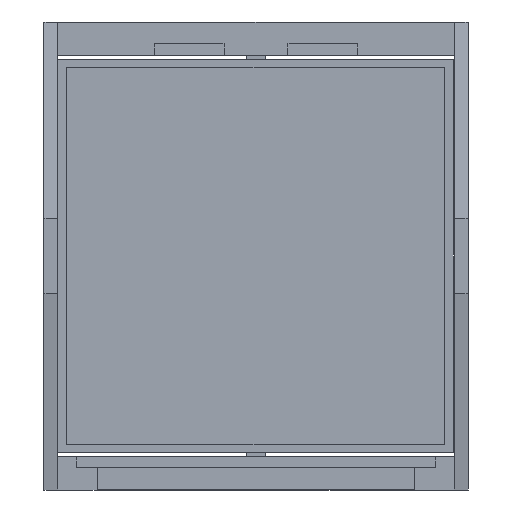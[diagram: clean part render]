
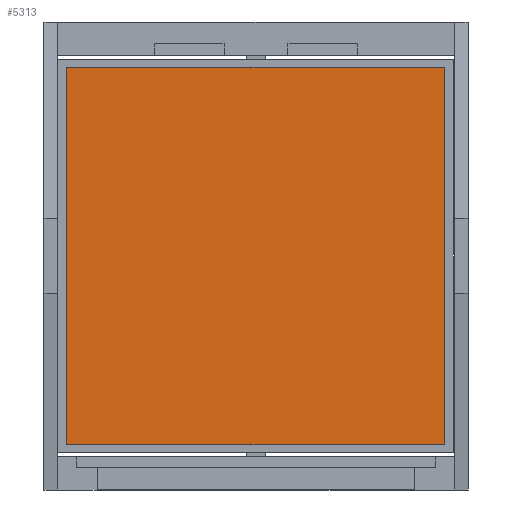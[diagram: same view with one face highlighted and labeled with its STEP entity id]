
A CAD part, front view. The second image highlights one B-rep face of the part: STEP entity #5313.
In plain terms, the highlighted planar face has unit normal (0, -1, 0).
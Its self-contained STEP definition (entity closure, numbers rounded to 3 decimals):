
#276 = EDGE_CURVE ( 'NONE', #8261, #8799, #1393, .T. ) ;
#297 = DIRECTION ( 'NONE',  ( 0., 1., 0. ) ) ;
#484 = EDGE_CURVE ( 'NONE', #548, #8261, #4271, .T. ) ;
#548 = VERTEX_POINT ( 'NONE', #5802 ) ;
#588 = ORIENTED_EDGE ( 'NONE', *, *, #484, .F. ) ;
#1306 = DIRECTION ( 'NONE',  ( 1., 0., 0. ) ) ;
#1393 = LINE ( 'NONE', #8656, #9219 ) ;
#2024 = PLANE ( 'NONE',  #4317 ) ;
#2036 = LINE ( 'NONE', #8563, #9264 ) ;
#2166 = ORIENTED_EDGE ( 'NONE', *, *, #276, .F. ) ;
#2583 = CARTESIAN_POINT ( 'NONE',  ( -13.476, -2.324, 17.577 ) ) ;
#3170 = DIRECTION ( 'NONE',  ( 0., 0., 1. ) ) ;
#3748 = ORIENTED_EDGE ( 'NONE', *, *, #6093, .F. ) ;
#4203 = CARTESIAN_POINT ( 'NONE',  ( -13.476, -2.324, -20.423 ) ) ;
#4271 = LINE ( 'NONE', #9189, #6903 ) ;
#4317 = AXIS2_PLACEMENT_3D ( 'NONE', #2583, #297, #3170 ) ;
#4720 = DIRECTION ( 'NONE',  ( 0., 0., -1. ) ) ;
#4789 = VECTOR ( 'NONE', #6633, 1000. ) ;
#4975 = FACE_OUTER_BOUND ( 'NONE', #6662, .T. ) ;
#5107 = EDGE_CURVE ( 'NONE', #6502, #548, #2036, .T. ) ;
#5313 = ADVANCED_FACE ( 'NONE', ( #4975 ), #2024, .F. ) ;
#5802 = CARTESIAN_POINT ( 'NONE',  ( 24.524, -2.324, 17.577 ) ) ;
#6093 = EDGE_CURVE ( 'NONE', #8799, #6502, #7187, .T. ) ;
#6502 = VERTEX_POINT ( 'NONE', #9458 ) ;
#6547 = DIRECTION ( 'NONE',  ( -1., 0., 0. ) ) ;
#6633 = DIRECTION ( 'NONE',  ( 0., 0., 1. ) ) ;
#6662 = EDGE_LOOP ( 'NONE', ( #3748, #2166, #588, #8278 ) ) ;
#6903 = VECTOR ( 'NONE', #4720, 1000. ) ;
#7187 = LINE ( 'NONE', #4203, #4789 ) ;
#7233 = CARTESIAN_POINT ( 'NONE',  ( -13.476, -2.324, -20.423 ) ) ;
#8261 = VERTEX_POINT ( 'NONE', #8734 ) ;
#8278 = ORIENTED_EDGE ( 'NONE', *, *, #5107, .F. ) ;
#8563 = CARTESIAN_POINT ( 'NONE',  ( -13.476, -2.324, 17.577 ) ) ;
#8656 = CARTESIAN_POINT ( 'NONE',  ( -13.476, -2.324, -20.423 ) ) ;
#8734 = CARTESIAN_POINT ( 'NONE',  ( 24.524, -2.324, -20.423 ) ) ;
#8799 = VERTEX_POINT ( 'NONE', #7233 ) ;
#9189 = CARTESIAN_POINT ( 'NONE',  ( 24.524, -2.324, -20.423 ) ) ;
#9219 = VECTOR ( 'NONE', #6547, 1000. ) ;
#9264 = VECTOR ( 'NONE', #1306, 1000. ) ;
#9458 = CARTESIAN_POINT ( 'NONE',  ( -13.476, -2.324, 17.577 ) ) ;
